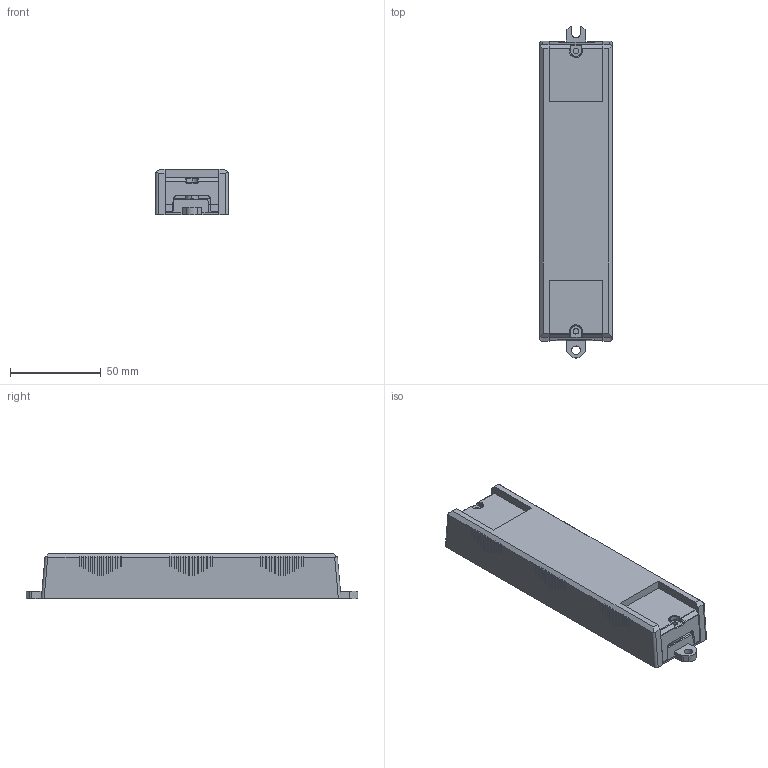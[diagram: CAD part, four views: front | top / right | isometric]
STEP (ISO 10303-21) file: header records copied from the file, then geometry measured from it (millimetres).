
FILE_DESCRIPTION (( 'STEP AP203' ), '1' );
FILE_NAME ('LL1x20-E-DA.STEP_.STEP', '2014-11-10T11:30:19', ( '' ), ( '' ), 'SwSTEP 2.0', 'SolidWorks 2014', '' );
FILE_SCHEMA (( 'CONFIG_CONTROL_DESIGN' ));
Length unit declared in the file: millimetre
Products named in the file (6): Lateral Cover Box 20W_6_121115; LL1x20-E-DA.STEP_; 75417; PCB_75417_; MirrorWAGO-250-204-2_2 napainen; WAGO-250-204-2_4 napainen
Assembly tree (6 placements, depth 2):
  LL1x20-E-DA.STEP_
    75417
    PCB_75417_
    MirrorWAGO-250-204-2_2 napainen
    WAGO-250-204-2_4 napainen
    Lateral Cover Box 20W_6_121115  x2
Bounding box: 40.14 x 183.08 x 24.9 mm (x, y, z)
Volume: 13930.1 mm3; surface area: 60958 mm2
Topology: 4 solids, 7 shells, 850 faces, 2686 edges, 1794 vertices
Faces by surface type: plane 583, cylinder 235, cone 16, bspline 16
Entity records: 24150 total; most frequent: CARTESIAN_POINT 5659, ORIENTED_EDGE 3892, DIRECTION 3307, EDGE_CURVE 2123, LINE 1749, VECTOR 1749, VERTEX_POINT 1424, AXIS2_PLACEMENT_3D 779
